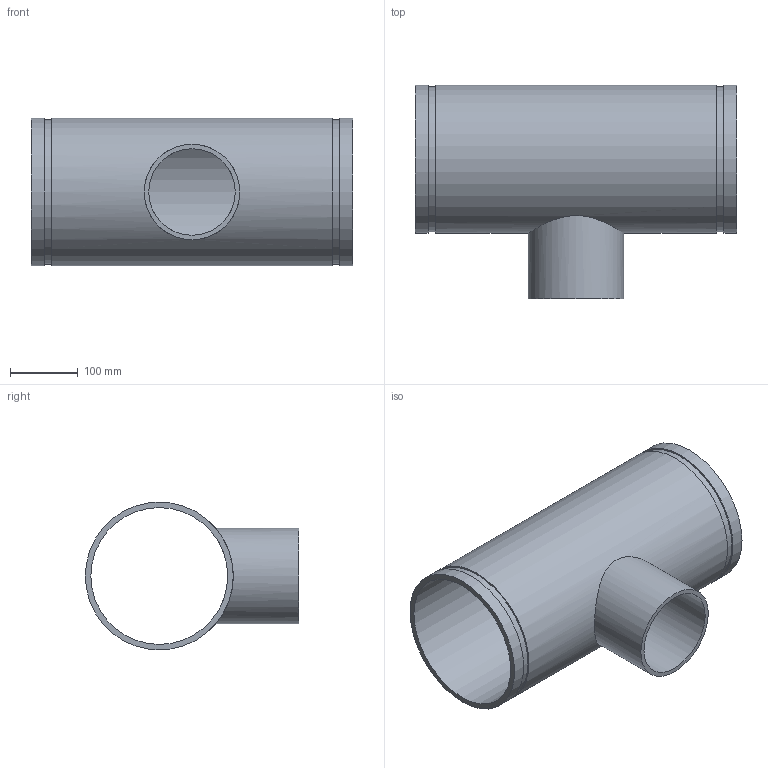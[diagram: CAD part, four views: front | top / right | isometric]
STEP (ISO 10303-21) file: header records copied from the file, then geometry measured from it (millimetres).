
FILE_DESCRIPTION(/* description */ ('VIC REDUCING TEE No 29T FFT (OGSxMPT)','CAx-IF Rec.Pracs.---Representation and Presentation of Product Manufacturing Information (PMI)---4.0---2014-10-13'),/* implementation_level */ '2;1');
FILE_NAME(/* name */ 'C:\Users\kkamble\AppData\Roaming\Autodesk\ApplicationPlugins\Back Up\Victaulic_IPS_Tee Reducing_No 29T FFT (OGSxMPT)\Victaulic_IPS_Tee Reducing_No 29T FFT (OGSxMPT)_08.0x05.0 (200x125).stp',/* time_stamp */ '2020-09-16T22:38:52+05:00',/* author */ ('CORINNE GRAY'),/* organization */ ('Victaulic'),/* preprocessor_version */ 'ST-DEVELOPER v17.2',/* originating_system */ 'Autodesk Inventor 2019',/* authorisation */ '');
FILE_SCHEMA (('AP242_MANAGED_MODEL_BASED_3D_ENGINEERING_MIM_LF { 1 0 10303 442 1 1 4 }'));
Length unit declared in the file: inch
Products named in the file (1): 29 FFT-08.0x05.0
Bounding box: 476.5 x 316.04 x 219.07 mm (x, y, z)
Volume: 2735786.8 mm3; surface area: 716112.9 mm2
Topology: 1 solids, 1 shells, 15 faces, 32 edges, 24 vertices
Faces by surface type: cylinder 8, plane 7
Full cylindrical faces by diameter (mm): 128.194 x1, 141.3 x1, 202.717 x1, 214.401 x2, 219.075 x3
Entity records: 709 total; most frequent: CARTESIAN_POINT 221, DIRECTION 106, ORIENTED_EDGE 64, AXIS2_PLACEMENT_3D 49, EDGE_CURVE 32, EDGE_LOOP 24, VERTEX_POINT 24, CIRCLE 20
